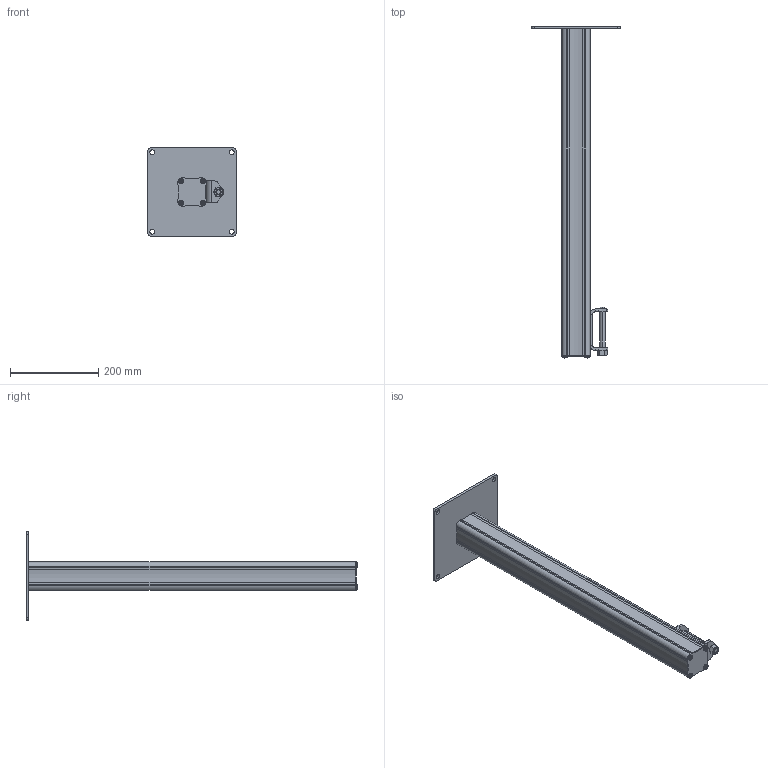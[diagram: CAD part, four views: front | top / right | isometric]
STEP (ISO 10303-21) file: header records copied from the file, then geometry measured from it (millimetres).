
FILE_DESCRIPTION((''),'2;1');
FILE_NAME('139920','2020-01-08T08:02:01',('Tomas Bellgran'),(''),'CREO PARAMETRIC BY PTC INC, 2018260','CREO PARAMETRIC BY PTC INC, 2018260','');
FILE_SCHEMA(('AUTOMOTIVE_DESIGN { 1 0 10303 214 1 1 1 1 }'));
Length unit declared in the file: millimetre
Products named in the file (10): 138774; 139913; 139460; 100-6306; 9908480; 135516; 118449; 102078; 9967826; 139920
Assembly tree (16 placements, depth 2):
  139920
    138774
    139913
    139460
    100-6306
    9908480
    135516
    118449  x4
    102078  x4
    9967826  x2
Bounding box: 200 x 754 x 200 mm (x, y, z)
Volume: 3104193.4 mm3; surface area: 361729.2 mm2
Topology: 16 solids, 18 shells, 378 faces, 889 edges, 559 vertices
Faces by surface type: cylinder 194, plane 111, cone 58, sphere 10, torus 5
Entity records: 14969 total; most frequent: CARTESIAN_POINT 4268, DIRECTION 1612, ORIENTED_EDGE 1250, AXIS2_PLACEMENT_3D 645, EDGE_CURVE 629, PROPERTY_DEFINITION 510, REPRESENTATION 499, PROPERTY_DEFINITION_REPRESENTATION 499
